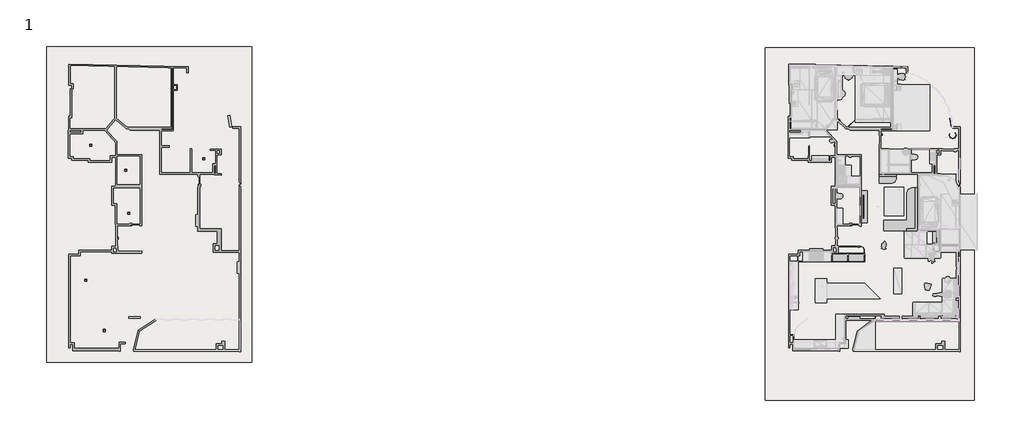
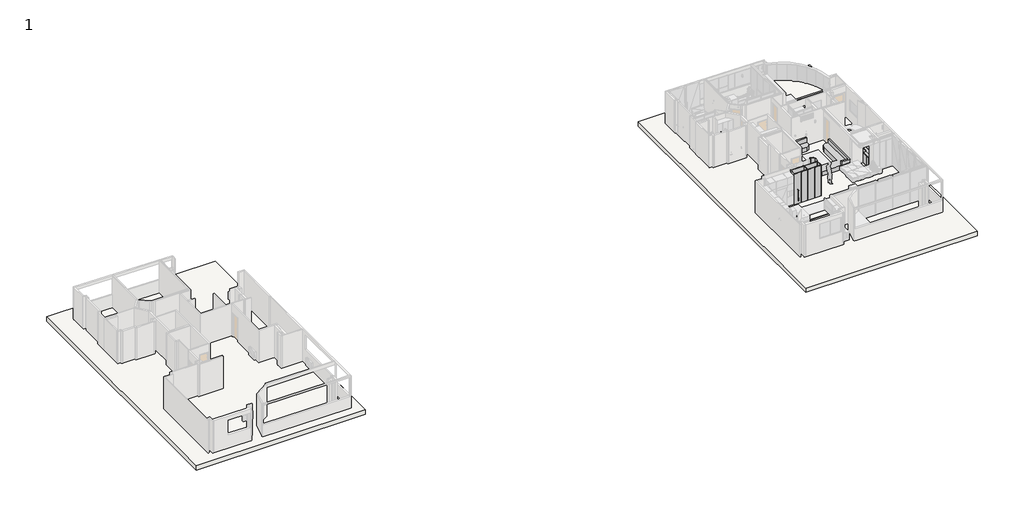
# One storey, part 8 of 11: 7 furniture elements, 2 air terminals, 2 slabs, 1 flow terminal.
"""IFC4 building model written with IfcOpenShell, lengths in millimetres."""

from ifc_helpers import new_model, si_unit, frame, origin, origin_with_axes, place, context, project, spatial, polyline, circle_curve, outline, extrude, faceted_brep, transform, mapped, element, save
from ifc_brep_helpers import plane_surface, revolved_surface, advanced_brep
from components import air_terminals_1_air_terminals_1_e812599d, air_terminals_4_air_terminals_1_a13ba462, black_aluminium_finish_374d2aef, furniture_4b3c3050, furniture_8c2b42f5, casework_1_casework_1_45500216, furniture_1_furniture_1_cbb80b0e

model = new_model("IFC4")

# Units and contexts
model_context = context("Model", 3, world=origin())
ifc_project = project(units=[si_unit("LENGTHUNIT", "METRE", prefix="MILLI")], contexts=[model_context])

# Site, building, storey
site = spatial("IfcSite", under=ifc_project)
building = spatial("IfcBuilding", under=site)
storey = spatial("IfcBuildingStorey", under=building, Name="1", Elevation=0.0)

# Air terminals
placement = place(None, origin())
air_terminals_1_air_terminals_1_shape = air_terminals_1_air_terminals_1_e812599d(model_context)
element("IfcAirTerminal", 1, ObjectType="Air Terminals 1 : Air Terminals 1", at=placement, inside=storey, context=model_context, shape_type="MappedRepresentation", body=[
    mapped(air_terminals_1_air_terminals_1_shape, transform((0.0, 0.0, 0.0), x_axis=(1.0, 0.0, 0.0), y_axis=(0.0, 1.0, 0.0), z_axis=(0.0, 0.0, 1.0))),
])
air_terminals_4_air_terminals_1_shape = air_terminals_4_air_terminals_1_a13ba462(model_context)
element("IfcAirTerminal", 2, ObjectType="Air Terminals 4 : Air Terminals 1", at=placement, inside=storey, context=model_context, shape_type="MappedRepresentation", body=[
    mapped(air_terminals_4_air_terminals_1_shape, transform((239.8543098, 19.0719963, 0.0), x_axis=(1.0, 0.0, 0.0), y_axis=(0.0, 1.0, 0.0), z_axis=(0.0, 0.0, 1.0))),
])

# Flow terminal
black_aluminium_finish_shape = black_aluminium_finish_374d2aef(model_context)
element("IfcFlowTerminal", 3, ObjectType="Sanitary_Shower-screens_Duscholux_D5Custom20_Slider-door-shower : Black Aluminium Finish", at=placement, inside=storey, context=model_context, shape_type="MappedRepresentation", body=[
    mapped(black_aluminium_finish_shape, transform((88998.3334259, 19551.5121652, 0.0), x_axis=(0.0, 1.0, 0.0), y_axis=(-1.0, 0.0, 0.0), z_axis=(0.0, 0.0, 1.0))),
])

# Furniture
element("IfcFurniture", 4, ObjectType="یونیت 2 در عمودی : یونیت 2 در عمودی", at=placement, inside=storey, context=model_context, shape_type="SolidModel", body=[
    faceted_brep([(90593.8549068, 12616.7518002, 2800.0), (90577.8549068, 12616.7518002, 2800.0), (90577.8549068, 12032.7518002, 2800.0), (90593.8549068, 12032.7518002, 2800.0), (90593.8549068, 12616.7518002, 0.0), (90593.8549068, 12032.7518002, 0.0), (90577.8549068, 12032.7518002, 0.0), (90577.8549068, 12616.7518002, 0.0), (90593.8549068, 12132.7518002, 2784.0), (90593.8549068, 12144.7518002, 2784.0), (90593.8549068, 12144.7518002, 16.0), (90593.8549068, 12132.7518002, 16.0), (90583.8549068, 12132.7518002, 2784.0), (90583.8549068, 12144.7518002, 2784.0), (90583.8549068, 12144.7518002, 16.0), (90583.8549068, 12132.7518002, 16.0)], [[[0, 1, 2, 3]], [[4, 5, 6, 7]], [[1, 0, 4, 7]], [[2, 1, 7, 6]], [[3, 2, 6, 5]], [[0, 3, 5, 4], [8, 9, 10, 11]], [[8, 12, 13, 9]], [[10, 14, 15, 11]], [[9, 13, 14, 10]], [[13, 12, 15, 14]], [[12, 8, 11, 15]]]),
    faceted_brep([(91726.8549068, 12616.7518002, 2800.0), (91726.8549068, 12032.7518002, 2800.0), (91742.8549068, 12032.7518002, 2800.0), (91742.8549068, 12616.7518002, 2800.0), (91726.8549068, 12616.7518002, 0.0), (91742.8549068, 12616.7518002, 0.0), (91742.8549068, 12032.7518002, 0.0), (91726.8549068, 12032.7518002, 0.0), (91726.8549068, 12144.7518002, 2784.0), (91726.8549068, 12132.7518002, 2784.0), (91726.8549068, 12132.7518002, 16.0), (91726.8549068, 12144.7518002, 16.0), (91736.8549068, 12144.7518002, 2784.0), (91736.8549068, 12132.7518002, 2784.0), (91736.8549068, 12144.7518002, 16.0), (91736.8549068, 12132.7518002, 16.0)], [[[0, 1, 2, 3]], [[4, 5, 6, 7]], [[1, 0, 4, 7], [8, 9, 10, 11]], [[2, 1, 7, 6]], [[3, 2, 6, 5]], [[0, 3, 5, 4]], [[12, 13, 9, 8]], [[14, 11, 10, 15]], [[12, 8, 11, 14]], [[9, 13, 15, 10]], [[13, 12, 14, 15]]]),
    extrude(outline(polyline([(91727.8549068, 12144.7518002), (91727.8549068, 12132.7518002), (91726.8549068, 12132.7518002), (91726.8549068, 12144.7518002), (91727.8549068, 12144.7518002)])), frame((0.0, 0.0, 16.0), z_axis=(0.0, 0.0, 1.0), x_axis=(1.0, 0.0, 0.0)), (0.0, 0.0, 1.0), 2768.0),
    extrude(outline(polyline([(90592.8549068, 12144.7518002), (90593.8549068, 12144.7518002), (90593.8549068, 12132.7518002), (90592.8549068, 12132.7518002), (90592.8549068, 12144.7518002)])), frame((0.0, 0.0, 16.0), z_axis=(0.0, 0.0, 1.0), x_axis=(1.0, 0.0, 0.0)), (0.0, 0.0, 1.0), 2768.0),
    extrude(outline(polyline([(91736.8549068, 12144.7518002), (91736.8549068, 12132.7518002), (91727.8549068, 12132.7518002), (91727.8549068, 12133.7518002), (91735.8549068, 12133.7518002), (91735.8549068, 12143.7518002), (91727.8549068, 12143.7518002), (91727.8549068, 12144.7518002), (91736.8549068, 12144.7518002)])), frame((0.0, 0.0, 16.0), z_axis=(0.0, 0.0, 1.0), x_axis=(1.0, 0.0, 0.0)), (0.0, 0.0, 1.0), 2768.0),
    extrude(outline(polyline([(90583.8549068, 12144.7518002), (90592.8549068, 12144.7518002), (90592.8549068, 12143.7518002), (90584.8549068, 12143.7518002), (90584.8549068, 12133.7518002), (90592.8549068, 12133.7518002), (90592.8549068, 12132.7518002), (90583.8549068, 12132.7518002), (90583.8549068, 12144.7518002)])), frame((0.0, 0.0, 16.0), z_axis=(0.0, 0.0, 1.0), x_axis=(1.0, 0.0, 0.0)), (0.0, 0.0, 1.0), 2768.0),
    extrude(outline(polyline([(91737.8549068, 12016.7518002), (91162.9549068, 12016.7518002), (91162.9549068, 12032.7518002), (91737.8549068, 12032.7518002), (91737.8549068, 12016.7518002)])), frame((0.0, 0.0, 0.4), z_axis=(0.0, 0.0, 1.0), x_axis=(1.0, 0.0, 0.0)), (0.0, 0.0, 1.0), 2799.2),
    extrude(outline(polyline([(91157.9549068, 12016.7518002), (90582.8549068, 12016.7518002), (90582.8549068, 12032.7518002), (91157.9549068, 12032.7518002), (91157.9549068, 12016.7518002)])), frame((0.0, 0.0, 0.4), z_axis=(0.0, 0.0, 1.0), x_axis=(1.0, 0.0, 0.0)), (0.0, 0.0, 1.0), 2799.2),
    extrude(outline(polyline([(91726.8549068, 12616.7518002), (91726.8549068, 12600.7518002), (90593.8549068, 12600.7518002), (90593.8549068, 12616.7518002), (91726.8549068, 12616.7518002)])), origin_with_axes(), (0.0, 0.0, 1.0), 2800.0),
    extrude(outline(polyline([(91726.8549068, 12600.7518002), (91726.8549068, 12132.7518002), (90593.8549068, 12132.7518002), (90593.8549068, 12600.7518002), (91726.8549068, 12600.7518002)])), frame((0.0, 0.0, 1384.0), z_axis=(0.0, 0.0, 1.0), x_axis=(1.0, 0.0, 0.0)), (0.0, 0.0, 1.0), 16.0),
    extrude(outline(polyline([(91726.8549068, 12600.7518002), (91726.8549068, 12032.7518002), (90593.8549068, 12032.7518002), (90593.8549068, 12600.7518002), (91726.8549068, 12600.7518002)])), origin_with_axes(), (0.0, 0.0, 1.0), 16.0),
    extrude(outline(polyline([(91726.8549068, 12600.7518002), (91726.8549068, 12576.7518002), (90593.8549068, 12576.7518002), (90593.8549068, 12600.7518002), (91726.8549068, 12600.7518002)])), frame((0.0, 0.0, 2784.0), z_axis=(0.0, 0.0, 1.0), x_axis=(1.0, 0.0, 0.0)), (0.0, 0.0, 1.0), 16.0),
    extrude(outline(polyline([(91726.8549068, 12072.7518002), (91726.8549068, 12032.7518002), (90593.8549068, 12032.7518002), (90593.8549068, 12072.7518002), (91726.8549068, 12072.7518002)])), frame((0.0, 0.0, 2784.0), z_axis=(0.0, 0.0, 1.0), x_axis=(1.0, 0.0, 0.0)), (0.0, 0.0, 1.0), 16.0),
])
element("IfcFurniture", 5, ObjectType="یونیت 2 در عمودی : یونیت 2 در عمودی", at=placement, inside=storey, context=model_context, shape_type="SolidModel", body=[
    faceted_brep([(91758.8549068, 12616.7518002, 2800.0), (91742.8549068, 12616.7518002, 2800.0), (91742.8549068, 12032.7518002, 2800.0), (91758.8549068, 12032.7518002, 2800.0), (91758.8549068, 12616.7518002, 0.0), (91758.8549068, 12032.7518002, 0.0), (91742.8549068, 12032.7518002, 0.0), (91742.8549068, 12616.7518002, 0.0), (91758.8549068, 12132.7518002, 2784.0), (91758.8549068, 12144.7518002, 2784.0), (91758.8549068, 12144.7518002, 16.0), (91758.8549068, 12132.7518002, 16.0), (91748.8549068, 12132.7518002, 2784.0), (91748.8549068, 12144.7518002, 2784.0), (91748.8549068, 12144.7518002, 16.0), (91748.8549068, 12132.7518002, 16.0)], [[[0, 1, 2, 3]], [[4, 5, 6, 7]], [[1, 0, 4, 7]], [[2, 1, 7, 6]], [[3, 2, 6, 5]], [[0, 3, 5, 4], [8, 9, 10, 11]], [[8, 12, 13, 9]], [[10, 14, 15, 11]], [[9, 13, 14, 10]], [[13, 12, 15, 14]], [[12, 8, 11, 15]]]),
    faceted_brep([(92891.8549068, 12616.7518002, 2800.0), (92891.8549068, 12032.7518002, 2800.0), (92907.8549068, 12032.7518002, 2800.0), (92907.8549068, 12616.7518002, 2800.0), (92891.8549068, 12616.7518002, 0.0), (92907.8549068, 12616.7518002, 0.0), (92907.8549068, 12032.7518002, 0.0), (92891.8549068, 12032.7518002, 0.0), (92891.8549068, 12144.7518002, 2784.0), (92891.8549068, 12132.7518002, 2784.0), (92891.8549068, 12132.7518002, 16.0), (92891.8549068, 12144.7518002, 16.0), (92901.8549068, 12144.7518002, 2784.0), (92901.8549068, 12132.7518002, 2784.0), (92901.8549068, 12144.7518002, 16.0), (92901.8549068, 12132.7518002, 16.0)], [[[0, 1, 2, 3]], [[4, 5, 6, 7]], [[1, 0, 4, 7], [8, 9, 10, 11]], [[2, 1, 7, 6]], [[3, 2, 6, 5]], [[0, 3, 5, 4]], [[12, 13, 9, 8]], [[14, 11, 10, 15]], [[12, 8, 11, 14]], [[9, 13, 15, 10]], [[13, 12, 14, 15]]]),
    extrude(outline(polyline([(92892.8549068, 12144.7518002), (92892.8549068, 12132.7518002), (92891.8549068, 12132.7518002), (92891.8549068, 12144.7518002), (92892.8549068, 12144.7518002)])), frame((0.0, 0.0, 16.0), z_axis=(0.0, 0.0, 1.0), x_axis=(1.0, 0.0, 0.0)), (0.0, 0.0, 1.0), 2768.0),
    extrude(outline(polyline([(91757.8549068, 12144.7518002), (91758.8549068, 12144.7518002), (91758.8549068, 12132.7518002), (91757.8549068, 12132.7518002), (91757.8549068, 12144.7518002)])), frame((0.0, 0.0, 16.0), z_axis=(0.0, 0.0, 1.0), x_axis=(1.0, 0.0, 0.0)), (0.0, 0.0, 1.0), 2768.0),
    extrude(outline(polyline([(92901.8549068, 12144.7518002), (92901.8549068, 12132.7518002), (92892.8549068, 12132.7518002), (92892.8549068, 12133.7518002), (92900.8549068, 12133.7518002), (92900.8549068, 12143.7518002), (92892.8549068, 12143.7518002), (92892.8549068, 12144.7518002), (92901.8549068, 12144.7518002)])), frame((0.0, 0.0, 16.0), z_axis=(0.0, 0.0, 1.0), x_axis=(1.0, 0.0, 0.0)), (0.0, 0.0, 1.0), 2768.0),
    extrude(outline(polyline([(91748.8549068, 12144.7518002), (91757.8549068, 12144.7518002), (91757.8549068, 12143.7518002), (91749.8549068, 12143.7518002), (91749.8549068, 12133.7518002), (91757.8549068, 12133.7518002), (91757.8549068, 12132.7518002), (91748.8549068, 12132.7518002), (91748.8549068, 12144.7518002)])), frame((0.0, 0.0, 16.0), z_axis=(0.0, 0.0, 1.0), x_axis=(1.0, 0.0, 0.0)), (0.0, 0.0, 1.0), 2768.0),
    extrude(outline(polyline([(92902.8549068, 12016.7518002), (92327.9549068, 12016.7518002), (92327.9549068, 12032.7518002), (92902.8549068, 12032.7518002), (92902.8549068, 12016.7518002)])), frame((0.0, 0.0, 0.4), z_axis=(0.0, 0.0, 1.0), x_axis=(1.0, 0.0, 0.0)), (0.0, 0.0, 1.0), 2799.2),
    extrude(outline(polyline([(92322.9549068, 12016.7518002), (91747.8549068, 12016.7518002), (91747.8549068, 12032.7518002), (92322.9549068, 12032.7518002), (92322.9549068, 12016.7518002)])), frame((0.0, 0.0, 0.4), z_axis=(0.0, 0.0, 1.0), x_axis=(1.0, 0.0, 0.0)), (0.0, 0.0, 1.0), 2799.2),
    extrude(outline(polyline([(92891.8549068, 12616.7518002), (92891.8549068, 12600.7518002), (91758.8549068, 12600.7518002), (91758.8549068, 12616.7518002), (92891.8549068, 12616.7518002)])), origin_with_axes(), (0.0, 0.0, 1.0), 2800.0),
    extrude(outline(polyline([(92891.8549068, 12600.7518002), (92891.8549068, 12132.7518002), (91758.8549068, 12132.7518002), (91758.8549068, 12600.7518002), (92891.8549068, 12600.7518002)])), frame((0.0, 0.0, 1384.0), z_axis=(0.0, 0.0, 1.0), x_axis=(1.0, 0.0, 0.0)), (0.0, 0.0, 1.0), 16.0),
    extrude(outline(polyline([(92891.8549068, 12600.7518002), (92891.8549068, 12032.7518002), (91758.8549068, 12032.7518002), (91758.8549068, 12600.7518002), (92891.8549068, 12600.7518002)])), origin_with_axes(), (0.0, 0.0, 1.0), 16.0),
    extrude(outline(polyline([(92891.8549068, 12600.7518002), (92891.8549068, 12576.7518002), (91758.8549068, 12576.7518002), (91758.8549068, 12600.7518002), (92891.8549068, 12600.7518002)])), frame((0.0, 0.0, 2784.0), z_axis=(0.0, 0.0, 1.0), x_axis=(1.0, 0.0, 0.0)), (0.0, 0.0, 1.0), 16.0),
    extrude(outline(polyline([(92891.8549068, 12072.7518002), (92891.8549068, 12032.7518002), (91758.8549068, 12032.7518002), (91758.8549068, 12072.7518002), (92891.8549068, 12072.7518002)])), frame((0.0, 0.0, 2784.0), z_axis=(0.0, 0.0, 1.0), x_axis=(1.0, 0.0, 0.0)), (0.0, 0.0, 1.0), 16.0),
])
furniture_shape = furniture_4b3c3050(model_context)
element("IfcFurniture", 6, ObjectType="یونیت 1 در عمودی : یونیت 1 در عمودی", at=placement, inside=storey, context=model_context, shape_type="MappedRepresentation", body=[
    mapped(furniture_shape, transform((90136.2286607, 9457.101384, 0.0), x_axis=(0.0, -1.0, 0.0), y_axis=(1.0, 0.0, 0.0), z_axis=(0.0, 0.0, 1.0))),
])
element("IfcFurniture", 7, ObjectType="یونیت 1 در عمودی : یونیت 1 در عمودی", at=placement, inside=storey, context=model_context, shape_type="MappedRepresentation", body=[
    mapped(furniture_shape, transform((90136.2286607, 10462.1644283, 0.0), x_axis=(0.0, -1.0, 0.0), y_axis=(1.0, 0.0, 0.0), z_axis=(0.0, 0.0, 1.0))),
])
furniture_2_shape = furniture_8c2b42f5(model_context)
element("IfcFurniture", 8, ObjectType="یونیت 1 در عمودی : یونیت 1 در عمودی", at=placement, inside=storey, context=model_context, shape_type="MappedRepresentation", body=[
    mapped(furniture_2_shape, transform((90136.2286607, 9957.101384, 0.0), x_axis=(0.0, -1.0, 0.0), y_axis=(1.0, 0.0, 0.0), z_axis=(0.0, 0.0, 1.0))),
])
casework_1_casework_1_shape = casework_1_casework_1_45500216(model_context)
element("IfcFurniture", 9, ObjectType="Casework 1 : Casework 1", at=placement, inside=storey, context=model_context, shape_type="MappedRepresentation", body=[
    mapped(casework_1_casework_1_shape, transform((0.0, 0.0, 0.0), x_axis=(1.0, 0.0, 0.0), y_axis=(0.0, 1.0, 0.0), z_axis=(0.0, 0.0, 1.0))),
])
furniture_1_furniture_1_shape = furniture_1_furniture_1_cbb80b0e(model_context)
element("IfcFurniture", 10, ObjectType="Furniture 1 : Furniture 1", at=placement, inside=storey, context=model_context, shape_type="MappedRepresentation", body=[
    mapped(furniture_1_furniture_1_shape, transform((0.0, 0.0, 0.0), x_axis=(1.0, 0.0, 0.0), y_axis=(0.0, 1.0, 0.0), z_axis=(0.0, 0.0, 1.0))),
])

# Slabs
element("IfcSlab", 11, ObjectType="40", at=placement, inside=storey, context=model_context, shape_type="AdvancedBrep", body=[
    advanced_brep(
    [(49498.9736341, 4919.713032, -400.0), (34941.7570409, 4919.713032, -400.0), (34941.7570409, 27279.1842947, -400.0), (49498.9736341, 27279.1842947, -400.0), (34941.7570409, 4919.713032, 0.0), (49498.9736341, 4919.713032, 0.0), (49498.9736341, 27279.1842947, 0.0), (34941.7570409, 27279.1842947, 0.0), (37657.6932068, 10637.1914769, 0.0), (37657.6932068, 10783.1914769, 0.0), (37659.6932068, 10785.1914769, 0.0), (37805.6932068, 10785.1914769, 0.0), (37807.6932068, 10783.1914769, 0.0), (37807.6932068, 10637.1914769, 0.0), (37805.6932068, 10635.1914769, 0.0), (37659.6932068, 10635.1914769, 0.0), (38964.499878, 7086.9171184, 0.0), (38964.499878, 7232.9171184, 0.0), (38966.499878, 7234.9171184, 0.0), (39112.499878, 7234.9171184, 0.0), (39114.499878, 7232.9171184, 0.0), (39114.499878, 7086.9171184, 0.0), (39112.499878, 7084.9171184, 0.0), (38966.499878, 7084.9171184, 0.0), (40700.499878, 15394.8171184, 0.0), (40700.499878, 15540.8171184, 0.0), (40702.499878, 15542.8171184, 0.0), (40848.499878, 15542.8171184, 0.0), (40850.499878, 15540.8171184, 0.0), (40850.499878, 15394.8171184, 0.0), (40848.499878, 15392.8171184, 0.0), (40702.499878, 15392.8171184, 0.0), (46006.799878, 19263.4171184, 0.0), (46006.799878, 19409.4171184, 0.0), (46008.799878, 19411.4171184, 0.0), (46154.799878, 19411.4171184, 0.0), (46156.799878, 19409.4171184, 0.0), (46156.799878, 19263.4171184, 0.0), (46154.799878, 19261.4171184, 0.0), (46008.799878, 19261.4171184, 0.0), (40491.199878, 18433.0171184, 0.0), (40491.199878, 18579.0171184, 0.0), (40493.199878, 18581.0171184, 0.0), (40639.199878, 18581.0171184, 0.0), (40641.199878, 18579.0171184, 0.0), (40641.199878, 18433.0171184, 0.0), (40639.199878, 18431.0171184, 0.0), (40493.199878, 18431.0171184, 0.0), (38010.999878, 20201.9171184, 0.0), (38010.999878, 20347.9171184, 0.0), (38012.999878, 20349.9171184, 0.0), (38158.999878, 20349.9171184, 0.0), (38160.999878, 20347.9171184, 0.0), (38160.999878, 20201.9171184, 0.0), (38158.999878, 20199.9171184, 0.0), (38012.999878, 20199.9171184, 0.0), (37802.3501939, 10779.7362988, -13.5), (37802.3501939, 10779.7362988, -77.5), (37802.3501939, 10592.1968198, -77.5), (37802.3501939, 10592.1968198, -13.5), (37802.3501939, 10635.1914769, -13.5), (37802.3501939, 10735.6608818, -13.5), (37663.0446295, 10592.1968198, -13.5), (37663.0446295, 10592.1968198, -77.5), (37663.0446295, 10779.7362988, -77.5), (37663.0446295, 10779.7362988, -13.5), (37663.0446295, 10735.6608818, -13.5), (37663.0446295, 10635.1914769, -13.5), (37805.6932068, 10635.1914769, -13.5), (37807.6932068, 10637.1914769, -13.5), (37807.6932068, 10783.1914769, -13.5), (37805.6932068, 10785.1914769, -13.5), (37659.6932068, 10785.1914769, -13.5), (37657.6932068, 10783.1914769, -13.5), (37657.6932068, 10637.1914769, -13.5), (37659.6932068, 10635.1914769, -13.5), (39109.156865, 7229.4619404, -13.5), (39109.156865, 7229.4619404, -77.5), (39109.156865, 7041.9224614, -77.5), (39109.156865, 7041.9224614, -13.5), (39109.156865, 7084.9171184, -13.5), (39109.156865, 7185.3865234, -13.5), (38969.8513006, 7041.9224614, -13.5), (38969.8513006, 7041.9224614, -77.5), (38969.8513006, 7229.4619404, -77.5), (38969.8513006, 7229.4619404, -13.5), (38969.8513006, 7185.3865234, -13.5), (38969.8513006, 7084.9171184, -13.5), (39112.499878, 7084.9171184, -13.5), (39114.499878, 7086.9171184, -13.5), (39114.499878, 7232.9171184, -13.5), (39112.499878, 7234.9171184, -13.5), (38966.499878, 7234.9171184, -13.5), (38964.499878, 7232.9171184, -13.5), (38964.499878, 7086.9171184, -13.5), (38966.499878, 7084.9171184, -13.5), (40845.156865, 15537.3619404, -13.5), (40845.156865, 15537.3619404, -77.5), (40845.156865, 15349.8224614, -77.5), (40845.156865, 15349.8224614, -13.5), (40845.156865, 15392.8171184, -13.5), (40845.156865, 15493.2865234, -13.5), (40705.8513006, 15349.8224614, -13.5), (40705.8513006, 15349.8224614, -77.5), (40705.8513006, 15537.3619404, -77.5), (40705.8513006, 15537.3619404, -13.5), (40705.8513006, 15493.2865234, -13.5), (40705.8513006, 15392.8171184, -13.5), (40848.499878, 15392.8171184, -13.5), (40850.499878, 15394.8171184, -13.5), (40850.499878, 15540.8171184, -13.5), (40848.499878, 15542.8171184, -13.5), (40702.499878, 15542.8171184, -13.5), (40700.499878, 15540.8171184, -13.5), (40700.499878, 15394.8171184, -13.5), (40702.499878, 15392.8171184, -13.5), (46151.456865, 19405.9619404, -13.5), (46151.456865, 19405.9619404, -77.5), (46151.456865, 19218.4224614, -77.5), (46151.456865, 19218.4224614, -13.5), (46151.456865, 19261.4171184, -13.5), (46151.456865, 19361.8865234, -13.5), (46012.1513006, 19218.4224614, -13.5), (46012.1513006, 19218.4224614, -77.5), (46012.1513006, 19405.9619404, -77.5), (46012.1513006, 19405.9619404, -13.5), (46012.1513006, 19361.8865234, -13.5), (46012.1513006, 19261.4171184, -13.5), (46154.799878, 19261.4171184, -13.5), (46156.799878, 19263.4171184, -13.5), (46156.799878, 19409.4171184, -13.5), (46154.799878, 19411.4171184, -13.5), (46008.799878, 19411.4171184, -13.5), (46006.799878, 19409.4171184, -13.5), (46006.799878, 19263.4171184, -13.5), (46008.799878, 19261.4171184, -13.5), (40635.856865, 18575.5619404, -13.5), (40635.856865, 18575.5619404, -77.5), (40635.856865, 18388.0224614, -77.5), (40635.856865, 18388.0224614, -13.5), (40635.856865, 18431.0171184, -13.5), (40635.856865, 18531.4865234, -13.5), (40496.5513006, 18388.0224614, -13.5), (40496.5513006, 18388.0224614, -77.5), (40496.5513006, 18575.5619404, -77.5), (40496.5513006, 18575.5619404, -13.5), (40496.5513006, 18531.4865234, -13.5), (40496.5513006, 18431.0171184, -13.5), (40639.199878, 18431.0171184, -13.5), (40641.199878, 18433.0171184, -13.5), (40641.199878, 18579.0171184, -13.5), (40639.199878, 18581.0171184, -13.5), (40493.199878, 18581.0171184, -13.5), (40491.199878, 18579.0171184, -13.5), (40491.199878, 18433.0171184, -13.5), (40493.199878, 18431.0171184, -13.5), (38155.656865, 20344.4619404, -13.5), (38155.656865, 20344.4619404, -77.5), (38155.656865, 20156.9224614, -77.5), (38155.656865, 20156.9224614, -13.5), (38155.656865, 20199.9171184, -13.5), (38155.656865, 20300.3865234, -13.5), (38016.3513006, 20156.9224614, -13.5), (38016.3513006, 20156.9224614, -77.5), (38016.3513006, 20344.4619404, -77.5), (38016.3513006, 20344.4619404, -13.5), (38016.3513006, 20300.3865234, -13.5), (38016.3513006, 20199.9171184, -13.5), (38158.999878, 20199.9171184, -13.5), (38160.999878, 20201.9171184, -13.5), (38160.999878, 20347.9171184, -13.5), (38158.999878, 20349.9171184, -13.5), (38012.999878, 20349.9171184, -13.5), (38010.999878, 20347.9171184, -13.5), (38010.999878, 20201.9171184, -13.5), (38012.999878, 20199.9171184, -13.5)],
    [
        (0, 1),
        (1, 2),
        (2, 3),
        (3, 0),
        (4, 5),
        (5, 6),
        (6, 7),
        (7, 4),
        (8, 9),
        (9, 10, circle_curve(frame((37659.6932068, 10783.1914769, 0.0), z_axis=(0.0, 0.0, -1.0), x_axis=(1.0, 0.0, 0.0)), 2.0)),
        (10, 11),
        (11, 12, circle_curve(frame((37805.6932068, 10783.1914769, 0.0), z_axis=(0.0, 0.0, -1.0), x_axis=(1.0, 0.0, 0.0)), 2.0)),
        (12, 13),
        (13, 14, circle_curve(frame((37805.6932068, 10637.1914769, 0.0), z_axis=(0.0, 0.0, -1.0), x_axis=(1.0, 0.0, 0.0)), 2.0)),
        (14, 15),
        (15, 8, circle_curve(frame((37659.6932068, 10637.1914769, 0.0), z_axis=(0.0, 0.0, -1.0), x_axis=(1.0, 0.0, 0.0)), 2.0)),
        (16, 17),
        (17, 18, circle_curve(frame((38966.499878, 7232.9171184, 0.0), z_axis=(0.0, 0.0, -1.0), x_axis=(1.0, 0.0, 0.0)), 2.0)),
        (18, 19),
        (19, 20, circle_curve(frame((39112.499878, 7232.9171184, 0.0), z_axis=(0.0, 0.0, -1.0), x_axis=(1.0, 0.0, 0.0)), 2.0)),
        (20, 21),
        (21, 22, circle_curve(frame((39112.499878, 7086.9171184, 0.0), z_axis=(0.0, 0.0, -1.0), x_axis=(1.0, 0.0, 0.0)), 2.0)),
        (22, 23),
        (23, 16, circle_curve(frame((38966.499878, 7086.9171184, 0.0), z_axis=(0.0, 0.0, -1.0), x_axis=(1.0, 0.0, 0.0)), 2.0)),
        (24, 25),
        (25, 26, circle_curve(frame((40702.499878, 15540.8171184, 0.0), z_axis=(0.0, 0.0, -1.0), x_axis=(1.0, 0.0, 0.0)), 2.0)),
        (26, 27),
        (27, 28, circle_curve(frame((40848.499878, 15540.8171184, 0.0), z_axis=(0.0, 0.0, -1.0), x_axis=(1.0, 0.0, 0.0)), 2.0)),
        (28, 29),
        (29, 30, circle_curve(frame((40848.499878, 15394.8171184, 0.0), z_axis=(0.0, 0.0, -1.0), x_axis=(1.0, 0.0, 0.0)), 2.0)),
        (30, 31),
        (31, 24, circle_curve(frame((40702.499878, 15394.8171184, 0.0), z_axis=(0.0, 0.0, -1.0), x_axis=(1.0, 0.0, 0.0)), 2.0)),
        (32, 33),
        (33, 34, circle_curve(frame((46008.799878, 19409.4171184, 0.0), z_axis=(0.0, 0.0, -1.0), x_axis=(1.0, 0.0, 0.0)), 2.0)),
        (34, 35),
        (35, 36, circle_curve(frame((46154.799878, 19409.4171184, 0.0), z_axis=(0.0, 0.0, -1.0), x_axis=(1.0, 0.0, 0.0)), 2.0)),
        (36, 37),
        (37, 38, circle_curve(frame((46154.799878, 19263.4171184, 0.0), z_axis=(0.0, 0.0, -1.0), x_axis=(1.0, 0.0, 0.0)), 2.0)),
        (38, 39),
        (39, 32, circle_curve(frame((46008.799878, 19263.4171184, 0.0), z_axis=(0.0, 0.0, -1.0), x_axis=(1.0, 0.0, 0.0)), 2.0)),
        (40, 41),
        (41, 42, circle_curve(frame((40493.199878, 18579.0171184, 0.0), z_axis=(0.0, 0.0, -1.0), x_axis=(1.0, 0.0, 0.0)), 2.0)),
        (42, 43),
        (43, 44, circle_curve(frame((40639.199878, 18579.0171184, 0.0), z_axis=(0.0, 0.0, -1.0), x_axis=(1.0, 0.0, 0.0)), 2.0)),
        (44, 45),
        (45, 46, circle_curve(frame((40639.199878, 18433.0171184, 0.0), z_axis=(0.0, 0.0, -1.0), x_axis=(1.0, 0.0, 0.0)), 2.0)),
        (46, 47),
        (47, 40, circle_curve(frame((40493.199878, 18433.0171184, 0.0), z_axis=(0.0, 0.0, -1.0), x_axis=(1.0, 0.0, 0.0)), 2.0)),
        (48, 49),
        (49, 50, circle_curve(frame((38012.999878, 20347.9171184, 0.0), z_axis=(0.0, 0.0, -1.0), x_axis=(1.0, 0.0, 0.0)), 2.0)),
        (50, 51),
        (51, 52, circle_curve(frame((38158.999878, 20347.9171184, 0.0), z_axis=(0.0, 0.0, -1.0), x_axis=(1.0, 0.0, 0.0)), 2.0)),
        (52, 53),
        (53, 54, circle_curve(frame((38158.999878, 20201.9171184, 0.0), z_axis=(0.0, 0.0, -1.0), x_axis=(1.0, 0.0, 0.0)), 2.0)),
        (54, 55),
        (55, 48, circle_curve(frame((38012.999878, 20201.9171184, 0.0), z_axis=(0.0, 0.0, -1.0), x_axis=(1.0, 0.0, 0.0)), 2.0)),
        (0, 5),
        (4, 1),
        (7, 2),
        (6, 3),
        (56, 57),
        (57, 58),
        (58, 59),
        (59, 60),
        (60, 61),
        (61, 56),
        (62, 63),
        (63, 64),
        (64, 65),
        (65, 66),
        (66, 67),
        (67, 62),
        (59, 62),
        (67, 60),
        (58, 63),
        (57, 64),
        (56, 65),
        (60, 68),
        (68, 69, circle_curve(frame((37805.6932068, 10637.1914769, -13.5), z_axis=(0.0, 0.0, 1.0), x_axis=(1.0, 0.0, 0.0)), 2.0)),
        (69, 70),
        (70, 71, circle_curve(frame((37805.6932068, 10783.1914769, -13.5), z_axis=(0.0, 0.0, 1.0), x_axis=(1.0, 0.0, 0.0)), 2.0)),
        (71, 72),
        (72, 73, circle_curve(frame((37659.6932068, 10783.1914769, -13.5), z_axis=(0.0, 0.0, 1.0), x_axis=(1.0, 0.0, 0.0)), 2.0)),
        (73, 74),
        (74, 75, circle_curve(frame((37659.6932068, 10637.1914769, -13.5), z_axis=(0.0, 0.0, 1.0), x_axis=(1.0, 0.0, 0.0)), 2.0)),
        (75, 67),
        (73, 9),
        (8, 74),
        (15, 75),
        (14, 68),
        (13, 69),
        (12, 70),
        (11, 71),
        (10, 72),
        (76, 77),
        (77, 78),
        (78, 79),
        (79, 80),
        (80, 81),
        (81, 76),
        (82, 83),
        (83, 84),
        (84, 85),
        (85, 86),
        (86, 87),
        (87, 82),
        (79, 82),
        (87, 80),
        (78, 83),
        (77, 84),
        (76, 85),
        (80, 88),
        (88, 89, circle_curve(frame((39112.499878, 7086.9171184, -13.5), z_axis=(0.0, 0.0, 1.0), x_axis=(1.0, 0.0, 0.0)), 2.0)),
        (89, 90),
        (90, 91, circle_curve(frame((39112.499878, 7232.9171184, -13.5), z_axis=(0.0, 0.0, 1.0), x_axis=(1.0, 0.0, 0.0)), 2.0)),
        (91, 92),
        (92, 93, circle_curve(frame((38966.499878, 7232.9171184, -13.5), z_axis=(0.0, 0.0, 1.0), x_axis=(1.0, 0.0, 0.0)), 2.0)),
        (93, 94),
        (94, 95, circle_curve(frame((38966.499878, 7086.9171184, -13.5), z_axis=(0.0, 0.0, 1.0), x_axis=(1.0, 0.0, 0.0)), 2.0)),
        (95, 87),
        (93, 17),
        (16, 94),
        (23, 95),
        (22, 88),
        (21, 89),
        (20, 90),
        (19, 91),
        (18, 92),
        (96, 97),
        (97, 98),
        (98, 99),
        (99, 100),
        (100, 101),
        (101, 96),
        (102, 103),
        (103, 104),
        (104, 105),
        (105, 106),
        (106, 107),
        (107, 102),
        (99, 102),
        (107, 100),
        (98, 103),
        (97, 104),
        (96, 105),
        (100, 108),
        (108, 109, circle_curve(frame((40848.499878, 15394.8171184, -13.5), z_axis=(0.0, 0.0, 1.0), x_axis=(1.0, 0.0, 0.0)), 2.0)),
        (109, 110),
        (110, 111, circle_curve(frame((40848.499878, 15540.8171184, -13.5), z_axis=(0.0, 0.0, 1.0), x_axis=(1.0, 0.0, 0.0)), 2.0)),
        (111, 112),
        (112, 113, circle_curve(frame((40702.499878, 15540.8171184, -13.5), z_axis=(0.0, 0.0, 1.0), x_axis=(1.0, 0.0, 0.0)), 2.0)),
        (113, 114),
        (114, 115, circle_curve(frame((40702.499878, 15394.8171184, -13.5), z_axis=(0.0, 0.0, 1.0), x_axis=(1.0, 0.0, 0.0)), 2.0)),
        (115, 107),
        (113, 25),
        (24, 114),
        (31, 115),
        (30, 108),
        (29, 109),
        (28, 110),
        (27, 111),
        (26, 112),
        (116, 117),
        (117, 118),
        (118, 119),
        (119, 120),
        (120, 121),
        (121, 116),
        (122, 123),
        (123, 124),
        (124, 125),
        (125, 126),
        (126, 127),
        (127, 122),
        (119, 122),
        (127, 120),
        (118, 123),
        (117, 124),
        (116, 125),
        (120, 128),
        (128, 129, circle_curve(frame((46154.799878, 19263.4171184, -13.5), z_axis=(0.0, 0.0, 1.0), x_axis=(1.0, 0.0, 0.0)), 2.0)),
        (129, 130),
        (130, 131, circle_curve(frame((46154.799878, 19409.4171184, -13.5), z_axis=(0.0, 0.0, 1.0), x_axis=(1.0, 0.0, 0.0)), 2.0)),
        (131, 132),
        (132, 133, circle_curve(frame((46008.799878, 19409.4171184, -13.5), z_axis=(0.0, 0.0, 1.0), x_axis=(1.0, 0.0, 0.0)), 2.0)),
        (133, 134),
        (134, 135, circle_curve(frame((46008.799878, 19263.4171184, -13.5), z_axis=(0.0, 0.0, 1.0), x_axis=(1.0, 0.0, 0.0)), 2.0)),
        (135, 127),
        (133, 33),
        (32, 134),
        (39, 135),
        (38, 128),
        (37, 129),
        (36, 130),
        (35, 131),
        (34, 132),
        (136, 137),
        (137, 138),
        (138, 139),
        (139, 140),
        (140, 141),
        (141, 136),
        (142, 143),
        (143, 144),
        (144, 145),
        (145, 146),
        (146, 147),
        (147, 142),
        (139, 142),
        (147, 140),
        (138, 143),
        (137, 144),
        (136, 145),
        (140, 148),
        (148, 149, circle_curve(frame((40639.199878, 18433.0171184, -13.5), z_axis=(0.0, 0.0, 1.0), x_axis=(1.0, 0.0, 0.0)), 2.0)),
        (149, 150),
        (150, 151, circle_curve(frame((40639.199878, 18579.0171184, -13.5), z_axis=(0.0, 0.0, 1.0), x_axis=(1.0, 0.0, 0.0)), 2.0)),
        (151, 152),
        (152, 153, circle_curve(frame((40493.199878, 18579.0171184, -13.5), z_axis=(0.0, 0.0, 1.0), x_axis=(1.0, 0.0, 0.0)), 2.0)),
        (153, 154),
        (154, 155, circle_curve(frame((40493.199878, 18433.0171184, -13.5), z_axis=(0.0, 0.0, 1.0), x_axis=(1.0, 0.0, 0.0)), 2.0)),
        (155, 147),
        (153, 41),
        (40, 154),
        (47, 155),
        (46, 148),
        (45, 149),
        (44, 150),
        (43, 151),
        (42, 152),
        (156, 157),
        (157, 158),
        (158, 159),
        (159, 160),
        (160, 161),
        (161, 156),
        (162, 163),
        (163, 164),
        (164, 165),
        (165, 166),
        (166, 167),
        (167, 162),
        (159, 162),
        (167, 160),
        (158, 163),
        (157, 164),
        (156, 165),
        (160, 168),
        (168, 169, circle_curve(frame((38158.999878, 20201.9171184, -13.5), z_axis=(0.0, 0.0, 1.0), x_axis=(1.0, 0.0, 0.0)), 2.0)),
        (169, 170),
        (170, 171, circle_curve(frame((38158.999878, 20347.9171184, -13.5), z_axis=(0.0, 0.0, 1.0), x_axis=(1.0, 0.0, 0.0)), 2.0)),
        (171, 172),
        (172, 173, circle_curve(frame((38012.999878, 20347.9171184, -13.5), z_axis=(0.0, 0.0, 1.0), x_axis=(1.0, 0.0, 0.0)), 2.0)),
        (173, 174),
        (174, 175, circle_curve(frame((38012.999878, 20201.9171184, -13.5), z_axis=(0.0, 0.0, 1.0), x_axis=(1.0, 0.0, 0.0)), 2.0)),
        (175, 167),
        (173, 49),
        (48, 174),
        (55, 175),
        (54, 168),
        (53, 169),
        (52, 170),
        (51, 171),
        (50, 172),
    ],
    [
        plane_surface(frame((34941.7570409, 4919.713032, -400.0), z_axis=(0.0, 0.0, -1.0), x_axis=(-1.0, 0.0, 0.0))),
        plane_surface(frame((34941.7570409, 4919.713032, 0.0), z_axis=(0.0, 0.0, 1.0), x_axis=(1.0, 0.0, 0.0))),
        plane_surface(frame((49498.9736341, 4919.713032, -400.0), z_axis=(0.0, -1.0, 0.0), x_axis=(0.0, 0.0, 1.0))),
        plane_surface(frame((34941.7570409, 4919.713032, -400.0), z_axis=(-1.0, 0.0, 0.0), x_axis=(0.0, 0.0, 1.0))),
        plane_surface(frame((34941.7570409, 27279.1842947, -400.0), z_axis=(0.0, 1.0, 0.0), x_axis=(0.0, 0.0, 1.0))),
        plane_surface(frame((49498.9736341, 27279.1842947, -400.0), z_axis=(1.0, 0.0, 0.0), x_axis=(0.0, 0.0, 1.0))),
        plane_surface(frame((37802.3501939, 10736.690057, -13.5), z_axis=(-1.0, 0.0, 0.0), x_axis=(0.0, -1.0, 0.0))),
        plane_surface(frame((37663.0446295, 10736.690057, -13.5), z_axis=(1.0, 0.0, 0.0), x_axis=(0.0, 1.0, 0.0))),
        plane_surface(frame((37802.3501939, 10735.6608818, -13.5), z_axis=(0.0, 0.0, -1.0), x_axis=(-1.0, 0.0, 0.0))),
        plane_surface(frame((37802.3501939, 10592.1968198, -13.5), z_axis=(0.0, 1.0, 0.0), x_axis=(-1.0, 0.0, 0.0))),
        plane_surface(frame((37802.3501939, 10592.1968198, -77.5), z_axis=(0.0, 0.0, 1.0), x_axis=(-1.0, 0.0, 0.0))),
        plane_surface(frame((37802.3501939, 10779.7362988, -77.5), z_axis=(0.0, -1.0, 0.0), x_axis=(-1.0, 0.0, 0.0))),
        plane_surface(frame((37657.6932068, 10783.1914769, -13.5), z_axis=(0.0, 0.0, 1.0), x_axis=(0.0, 1.0, 0.0))),
        plane_surface(frame((37657.6932068, 10783.1914769, 250.0), z_axis=(1.0, 0.0, 0.0), x_axis=(0.0, 0.0, -1.0))),
        revolved_surface(polyline([(37661.6932068, 10637.1914769, 0.0), (37661.6932068, 10637.1914769, -13.5)]), (37659.6932068, 10637.1914769, -13.5), (0.0, 0.0, 1.0)),
        plane_surface(frame((37659.6932068, 10635.1914769, 250.0), z_axis=(0.0, 1.0, 0.0), x_axis=(0.0, 0.0, -1.0))),
        revolved_surface(polyline([(37807.6932068, 10637.1914769, 0.0), (37807.6932068, 10637.1914769, -13.5)]), (37805.6932068, 10637.1914769, -13.5), (0.0, 0.0, 1.0)),
        plane_surface(frame((37807.6932068, 10637.1914769, 250.0), z_axis=(-1.0, 0.0, 0.0), x_axis=(0.0, 0.0, -1.0))),
        revolved_surface(polyline([(37807.6932068, 10783.1914769, 0.0), (37807.6932068, 10783.1914769, -13.5)]), (37805.6932068, 10783.1914769, -13.5), (0.0, 0.0, 1.0)),
        plane_surface(frame((37805.6932068, 10785.1914769, 250.0), z_axis=(0.0, -1.0, 0.0), x_axis=(0.0, 0.0, -1.0))),
        revolved_surface(polyline([(37661.6932068, 10783.1914769, 0.0), (37661.6932068, 10783.1914769, -13.5)]), (37659.6932068, 10783.1914769, -13.5), (0.0, 0.0, 1.0)),
        plane_surface(frame((39109.156865, 7186.4156986, -13.5), z_axis=(-1.0, 0.0, 0.0), x_axis=(0.0, -1.0, 0.0))),
        plane_surface(frame((38969.8513006, 7186.4156986, -13.5), z_axis=(1.0, 0.0, 0.0), x_axis=(0.0, 1.0, 0.0))),
        plane_surface(frame((39109.156865, 7185.3865234, -13.5), z_axis=(0.0, 0.0, -1.0), x_axis=(-1.0, 0.0, 0.0))),
        plane_surface(frame((39109.156865, 7041.9224614, -13.5), z_axis=(0.0, 1.0, 0.0), x_axis=(-1.0, 0.0, 0.0))),
        plane_surface(frame((39109.156865, 7041.9224614, -77.5), z_axis=(0.0, 0.0, 1.0), x_axis=(-1.0, 0.0, 0.0))),
        plane_surface(frame((39109.156865, 7229.4619404, -77.5), z_axis=(0.0, -1.0, 0.0), x_axis=(-1.0, 0.0, 0.0))),
        plane_surface(frame((38964.499878, 7232.9171184, -13.5), z_axis=(0.0, 0.0, 1.0), x_axis=(0.0, 1.0, 0.0))),
        plane_surface(frame((38964.499878, 7232.9171184, 250.0), z_axis=(1.0, 0.0, 0.0), x_axis=(0.0, 0.0, -1.0))),
        revolved_surface(polyline([(38968.499878, 7086.9171184, 0.0), (38968.499878, 7086.9171184, -13.5)]), (38966.499878, 7086.9171184, -13.5), (0.0, 0.0, 1.0)),
        plane_surface(frame((38966.499878, 7084.9171184, 250.0), z_axis=(0.0, 1.0, 0.0), x_axis=(0.0, 0.0, -1.0))),
        revolved_surface(polyline([(39114.499878, 7086.9171184, 0.0), (39114.499878, 7086.9171184, -13.5)]), (39112.499878, 7086.9171184, -13.5), (0.0, 0.0, 1.0)),
        plane_surface(frame((39114.499878, 7086.9171184, 250.0), z_axis=(-1.0, 0.0, 0.0), x_axis=(0.0, 0.0, -1.0))),
        revolved_surface(polyline([(39114.499878, 7232.9171184, 0.0), (39114.499878, 7232.9171184, -13.5)]), (39112.499878, 7232.9171184, -13.5), (0.0, 0.0, 1.0)),
        plane_surface(frame((39112.499878, 7234.9171184, 250.0), z_axis=(0.0, -1.0, 0.0), x_axis=(0.0, 0.0, -1.0))),
        revolved_surface(polyline([(38968.499878, 7232.9171184, 0.0), (38968.499878, 7232.9171184, -13.5)]), (38966.499878, 7232.9171184, -13.5), (0.0, 0.0, 1.0)),
        plane_surface(frame((40845.156865, 15494.3156986, -13.5), z_axis=(-1.0, 0.0, 0.0), x_axis=(0.0, -1.0, 0.0))),
        plane_surface(frame((40705.8513006, 15494.3156986, -13.5), z_axis=(1.0, 0.0, 0.0), x_axis=(0.0, 1.0, 0.0))),
        plane_surface(frame((40845.156865, 15493.2865234, -13.5), z_axis=(0.0, 0.0, -1.0), x_axis=(-1.0, 0.0, 0.0))),
        plane_surface(frame((40845.156865, 15349.8224614, -13.5), z_axis=(0.0, 1.0, 0.0), x_axis=(-1.0, 0.0, 0.0))),
        plane_surface(frame((40845.156865, 15349.8224614, -77.5), z_axis=(0.0, 0.0, 1.0), x_axis=(-1.0, 0.0, 0.0))),
        plane_surface(frame((40845.156865, 15537.3619404, -77.5), z_axis=(0.0, -1.0, 0.0), x_axis=(-1.0, 0.0, 0.0))),
        plane_surface(frame((40700.499878, 15540.8171184, -13.5), z_axis=(0.0, 0.0, 1.0), x_axis=(0.0, 1.0, 0.0))),
        plane_surface(frame((40700.499878, 15540.8171184, 250.0), z_axis=(1.0, 0.0, 0.0), x_axis=(0.0, 0.0, -1.0))),
        revolved_surface(polyline([(40704.499878, 15394.8171184, 0.0), (40704.499878, 15394.8171184, -13.5)]), (40702.499878, 15394.8171184, -13.5), (0.0, 0.0, 1.0)),
        plane_surface(frame((40702.499878, 15392.8171184, 250.0), z_axis=(0.0, 1.0, 0.0), x_axis=(0.0, 0.0, -1.0))),
        revolved_surface(polyline([(40850.499878, 15394.8171184, 0.0), (40850.499878, 15394.8171184, -13.5)]), (40848.499878, 15394.8171184, -13.5), (0.0, 0.0, 1.0)),
        plane_surface(frame((40850.499878, 15394.8171184, 250.0), z_axis=(-1.0, 0.0, 0.0), x_axis=(0.0, 0.0, -1.0))),
        revolved_surface(polyline([(40850.499878, 15540.8171184, 0.0), (40850.499878, 15540.8171184, -13.5)]), (40848.499878, 15540.8171184, -13.5), (0.0, 0.0, 1.0)),
        plane_surface(frame((40848.499878, 15542.8171184, 250.0), z_axis=(0.0, -1.0, 0.0), x_axis=(0.0, 0.0, -1.0))),
        revolved_surface(polyline([(40704.499878, 15540.8171184, 0.0), (40704.499878, 15540.8171184, -13.5)]), (40702.499878, 15540.8171184, -13.5), (0.0, 0.0, 1.0)),
        plane_surface(frame((46151.456865, 19362.9156986, -13.5), z_axis=(-1.0, 0.0, 0.0), x_axis=(0.0, -1.0, 0.0))),
        plane_surface(frame((46012.1513006, 19362.9156986, -13.5), z_axis=(1.0, 0.0, 0.0), x_axis=(0.0, 1.0, 0.0))),
        plane_surface(frame((46151.456865, 19361.8865234, -13.5), z_axis=(0.0, 0.0, -1.0), x_axis=(-1.0, 0.0, 0.0))),
        plane_surface(frame((46151.456865, 19218.4224614, -13.5), z_axis=(0.0, 1.0, 0.0), x_axis=(-1.0, 0.0, 0.0))),
        plane_surface(frame((46151.456865, 19218.4224614, -77.5), z_axis=(0.0, 0.0, 1.0), x_axis=(-1.0, 0.0, 0.0))),
        plane_surface(frame((46151.456865, 19405.9619404, -77.5), z_axis=(0.0, -1.0, 0.0), x_axis=(-1.0, 0.0, 0.0))),
        plane_surface(frame((46006.799878, 19409.4171184, -13.5), z_axis=(0.0, 0.0, 1.0), x_axis=(0.0, 1.0, 0.0))),
        plane_surface(frame((46006.799878, 19409.4171184, 250.0), z_axis=(1.0, 0.0, 0.0), x_axis=(0.0, 0.0, -1.0))),
        revolved_surface(polyline([(46010.799878, 19263.4171184, 0.0), (46010.799878, 19263.4171184, -13.5)]), (46008.799878, 19263.4171184, -13.5), (0.0, 0.0, 1.0)),
        plane_surface(frame((46008.799878, 19261.4171184, 250.0), z_axis=(0.0, 1.0, 0.0), x_axis=(0.0, 0.0, -1.0))),
        revolved_surface(polyline([(46156.799878, 19263.4171184, 0.0), (46156.799878, 19263.4171184, -13.5)]), (46154.799878, 19263.4171184, -13.5), (0.0, 0.0, 1.0)),
        plane_surface(frame((46156.799878, 19263.4171184, 250.0), z_axis=(-1.0, 0.0, 0.0), x_axis=(0.0, 0.0, -1.0))),
        revolved_surface(polyline([(46156.799878, 19409.4171184, 0.0), (46156.799878, 19409.4171184, -13.5)]), (46154.799878, 19409.4171184, -13.5), (0.0, 0.0, 1.0)),
        plane_surface(frame((46154.799878, 19411.4171184, 250.0), z_axis=(0.0, -1.0, 0.0), x_axis=(0.0, 0.0, -1.0))),
        revolved_surface(polyline([(46010.799878, 19409.4171184, 0.0), (46010.799878, 19409.4171184, -13.5)]), (46008.799878, 19409.4171184, -13.5), (0.0, 0.0, 1.0)),
        plane_surface(frame((40635.856865, 18532.5156986, -13.5), z_axis=(-1.0, 0.0, 0.0), x_axis=(0.0, -1.0, 0.0))),
        plane_surface(frame((40496.5513006, 18532.5156986, -13.5), z_axis=(1.0, 0.0, 0.0), x_axis=(0.0, 1.0, 0.0))),
        plane_surface(frame((40635.856865, 18531.4865234, -13.5), z_axis=(0.0, 0.0, -1.0), x_axis=(-1.0, 0.0, 0.0))),
        plane_surface(frame((40635.856865, 18388.0224614, -13.5), z_axis=(0.0, 1.0, 0.0), x_axis=(-1.0, 0.0, 0.0))),
        plane_surface(frame((40635.856865, 18388.0224614, -77.5), z_axis=(0.0, 0.0, 1.0), x_axis=(-1.0, 0.0, 0.0))),
        plane_surface(frame((40635.856865, 18575.5619404, -77.5), z_axis=(0.0, -1.0, 0.0), x_axis=(-1.0, 0.0, 0.0))),
        plane_surface(frame((40491.199878, 18579.0171184, -13.5), z_axis=(0.0, 0.0, 1.0), x_axis=(0.0, 1.0, 0.0))),
        plane_surface(frame((40491.199878, 18579.0171184, 250.0), z_axis=(1.0, 0.0, 0.0), x_axis=(0.0, 0.0, -1.0))),
        revolved_surface(polyline([(40495.199878, 18433.0171184, 0.0), (40495.199878, 18433.0171184, -13.5)]), (40493.199878, 18433.0171184, -13.5), (0.0, 0.0, 1.0)),
        plane_surface(frame((40493.199878, 18431.0171184, 250.0), z_axis=(0.0, 1.0, 0.0), x_axis=(0.0, 0.0, -1.0))),
        revolved_surface(polyline([(40641.199878, 18433.0171184, 0.0), (40641.199878, 18433.0171184, -13.5)]), (40639.199878, 18433.0171184, -13.5), (0.0, 0.0, 1.0)),
        plane_surface(frame((40641.199878, 18433.0171184, 250.0), z_axis=(-1.0, 0.0, 0.0), x_axis=(0.0, 0.0, -1.0))),
        revolved_surface(polyline([(40641.199878, 18579.0171184, 0.0), (40641.199878, 18579.0171184, -13.5)]), (40639.199878, 18579.0171184, -13.5), (0.0, 0.0, 1.0)),
        plane_surface(frame((40639.199878, 18581.0171184, 250.0), z_axis=(0.0, -1.0, 0.0), x_axis=(0.0, 0.0, -1.0))),
        revolved_surface(polyline([(40495.199878, 18579.0171184, 0.0), (40495.199878, 18579.0171184, -13.5)]), (40493.199878, 18579.0171184, -13.5), (0.0, 0.0, 1.0)),
        plane_surface(frame((38155.656865, 20301.4156986, -13.5), z_axis=(-1.0, 0.0, 0.0), x_axis=(0.0, -1.0, 0.0))),
        plane_surface(frame((38016.3513006, 20301.4156986, -13.5), z_axis=(1.0, 0.0, 0.0), x_axis=(0.0, 1.0, 0.0))),
        plane_surface(frame((38155.656865, 20300.3865234, -13.5), z_axis=(0.0, 0.0, -1.0), x_axis=(-1.0, 0.0, 0.0))),
        plane_surface(frame((38155.656865, 20156.9224614, -13.5), z_axis=(0.0, 1.0, 0.0), x_axis=(-1.0, 0.0, 0.0))),
        plane_surface(frame((38155.656865, 20156.9224614, -77.5), z_axis=(0.0, 0.0, 1.0), x_axis=(-1.0, 0.0, 0.0))),
        plane_surface(frame((38155.656865, 20344.4619404, -77.5), z_axis=(0.0, -1.0, 0.0), x_axis=(-1.0, 0.0, 0.0))),
        plane_surface(frame((38010.999878, 20347.9171184, -13.5), z_axis=(0.0, 0.0, 1.0), x_axis=(0.0, 1.0, 0.0))),
        plane_surface(frame((38010.999878, 20347.9171184, 250.0), z_axis=(1.0, 0.0, 0.0), x_axis=(0.0, 0.0, -1.0))),
        revolved_surface(polyline([(38014.999878, 20201.9171184, 0.0), (38014.999878, 20201.9171184, -13.5)]), (38012.999878, 20201.9171184, -13.5), (0.0, 0.0, 1.0)),
        plane_surface(frame((38012.999878, 20199.9171184, 250.0), z_axis=(0.0, 1.0, 0.0), x_axis=(0.0, 0.0, -1.0))),
        revolved_surface(polyline([(38160.999878, 20201.9171184, 0.0), (38160.999878, 20201.9171184, -13.5)]), (38158.999878, 20201.9171184, -13.5), (0.0, 0.0, 1.0)),
        plane_surface(frame((38160.999878, 20201.9171184, 250.0), z_axis=(-1.0, 0.0, 0.0), x_axis=(0.0, 0.0, -1.0))),
        revolved_surface(polyline([(38160.999878, 20347.9171184, 0.0), (38160.999878, 20347.9171184, -13.5)]), (38158.999878, 20347.9171184, -13.5), (0.0, 0.0, 1.0)),
        plane_surface(frame((38158.999878, 20349.9171184, 250.0), z_axis=(0.0, -1.0, 0.0), x_axis=(0.0, 0.0, -1.0))),
        revolved_surface(polyline([(38014.999878, 20347.9171184, 0.0), (38014.999878, 20347.9171184, -13.5)]), (38012.999878, 20347.9171184, -13.5), (0.0, 0.0, 1.0)),
    ],
    [
        (0, [[1, 2, 3, 4]]),
        (1, [[5, 6, 7, 8], [9, 10, 11, 12, 13, 14, 15, 16], [17, 18, 19, 20, 21, 22, 23, 24], [25, 26, 27, 28, 29, 30, 31, 32], [33, 34, 35, 36, 37, 38, 39, 40], [41, 42, 43, 44, 45, 46, 47, 48], [49, 50, 51, 52, 53, 54, 55, 56]]),
        (2, [[-1, 57, -5, 58]]),
        (3, [[-2, -58, -8, 59]]),
        (4, [[-3, -59, -7, 60]]),
        (5, [[-4, -60, -6, -57]]),
        (6, [[61, 62, 63, 64, 65, 66]]),
        (7, [[67, 68, 69, 70, 71, 72]]),
        (8, [[-64, 73, -72, 74]]),
        (9, [[-63, 75, -67, -73]]),
        (10, [[-62, 76, -68, -75]]),
        (11, [[-61, 77, -69, -76]]),
        (12, [[-65, 78, 79, 80, 81, 82, 83, 84, 85, 86, -71, -70, -77, -66]]),
        (13, [[-84, 87, -9, 88]]),
        (14, [[-85, -88, -16, 89]]),
        (15, [[-74, -86, -89, -15, 90, -78]]),
        (16, [[-79, -90, -14, 91]]),
        (17, [[-80, -91, -13, 92]]),
        (18, [[-81, -92, -12, 93]]),
        (19, [[-82, -93, -11, 94]]),
        (20, [[-83, -94, -10, -87]]),
        (21, [[95, 96, 97, 98, 99, 100]]),
        (22, [[101, 102, 103, 104, 105, 106]]),
        (23, [[-98, 107, -106, 108]]),
        (24, [[-97, 109, -101, -107]]),
        (25, [[-96, 110, -102, -109]]),
        (26, [[-95, 111, -103, -110]]),
        (27, [[-99, 112, 113, 114, 115, 116, 117, 118, 119, 120, -105, -104, -111, -100]]),
        (28, [[-118, 121, -17, 122]]),
        (29, [[-119, -122, -24, 123]]),
        (30, [[-108, -120, -123, -23, 124, -112]]),
        (31, [[-113, -124, -22, 125]]),
        (32, [[-114, -125, -21, 126]]),
        (33, [[-115, -126, -20, 127]]),
        (34, [[-116, -127, -19, 128]]),
        (35, [[-117, -128, -18, -121]]),
        (36, [[129, 130, 131, 132, 133, 134]]),
        (37, [[135, 136, 137, 138, 139, 140]]),
        (38, [[-132, 141, -140, 142]]),
        (39, [[-131, 143, -135, -141]]),
        (40, [[-130, 144, -136, -143]]),
        (41, [[-129, 145, -137, -144]]),
        (42, [[-133, 146, 147, 148, 149, 150, 151, 152, 153, 154, -139, -138, -145, -134]]),
        (43, [[-152, 155, -25, 156]]),
        (44, [[-153, -156, -32, 157]]),
        (45, [[-142, -154, -157, -31, 158, -146]]),
        (46, [[-147, -158, -30, 159]]),
        (47, [[-148, -159, -29, 160]]),
        (48, [[-149, -160, -28, 161]]),
        (49, [[-150, -161, -27, 162]]),
        (50, [[-151, -162, -26, -155]]),
        (51, [[163, 164, 165, 166, 167, 168]]),
        (52, [[169, 170, 171, 172, 173, 174]]),
        (53, [[-166, 175, -174, 176]]),
        (54, [[-165, 177, -169, -175]]),
        (55, [[-164, 178, -170, -177]]),
        (56, [[-163, 179, -171, -178]]),
        (57, [[-167, 180, 181, 182, 183, 184, 185, 186, 187, 188, -173, -172, -179, -168]]),
        (58, [[-186, 189, -33, 190]]),
        (59, [[-187, -190, -40, 191]]),
        (60, [[-176, -188, -191, -39, 192, -180]]),
        (61, [[-181, -192, -38, 193]]),
        (62, [[-182, -193, -37, 194]]),
        (63, [[-183, -194, -36, 195]]),
        (64, [[-184, -195, -35, 196]]),
        (65, [[-185, -196, -34, -189]]),
        (66, [[197, 198, 199, 200, 201, 202]]),
        (67, [[203, 204, 205, 206, 207, 208]]),
        (68, [[-200, 209, -208, 210]]),
        (69, [[-199, 211, -203, -209]]),
        (70, [[-198, 212, -204, -211]]),
        (71, [[-197, 213, -205, -212]]),
        (72, [[-201, 214, 215, 216, 217, 218, 219, 220, 221, 222, -207, -206, -213, -202]]),
        (73, [[-220, 223, -41, 224]]),
        (74, [[-221, -224, -48, 225]]),
        (75, [[-210, -222, -225, -47, 226, -214]]),
        (76, [[-215, -226, -46, 227]]),
        (77, [[-216, -227, -45, 228]]),
        (78, [[-217, -228, -44, 229]]),
        (79, [[-218, -229, -43, 230]]),
        (80, [[-219, -230, -42, -223]]),
        (81, [[231, 232, 233, 234, 235, 236]]),
        (82, [[237, 238, 239, 240, 241, 242]]),
        (83, [[-234, 243, -242, 244]]),
        (84, [[-233, 245, -237, -243]]),
        (85, [[-232, 246, -238, -245]]),
        (86, [[-231, 247, -239, -246]]),
        (87, [[-235, 248, 249, 250, 251, 252, 253, 254, 255, 256, -241, -240, -247, -236]]),
        (88, [[-254, 257, -49, 258]]),
        (89, [[-255, -258, -56, 259]]),
        (90, [[-244, -256, -259, -55, 260, -248]]),
        (91, [[-249, -260, -54, 261]]),
        (92, [[-250, -261, -53, 262]]),
        (93, [[-251, -262, -52, 263]]),
        (94, [[-252, -263, -51, 264]]),
        (95, [[-253, -264, -50, -257]]),
    ],
),
])
element("IfcSlab", 12, ObjectType="40", at=placement, inside=storey, context=model_context, shape_type="SweptSolid", body=[
    extrude(outline(polyline([(85891.0798552, 2205.6813783), (85891.0798552, 27205.6813783), (100691.0798552, 27205.6813783), (100691.0798552, 2205.6813783), (85891.0798552, 2205.6813783)])), frame((0.0, 0.0, -400.0), z_axis=(0.0, 0.0, 1.0), x_axis=(1.0, 0.0, 0.0)), (0.0, 0.0, 1.0), 400.0),
])

save(model, "model.ifc")
